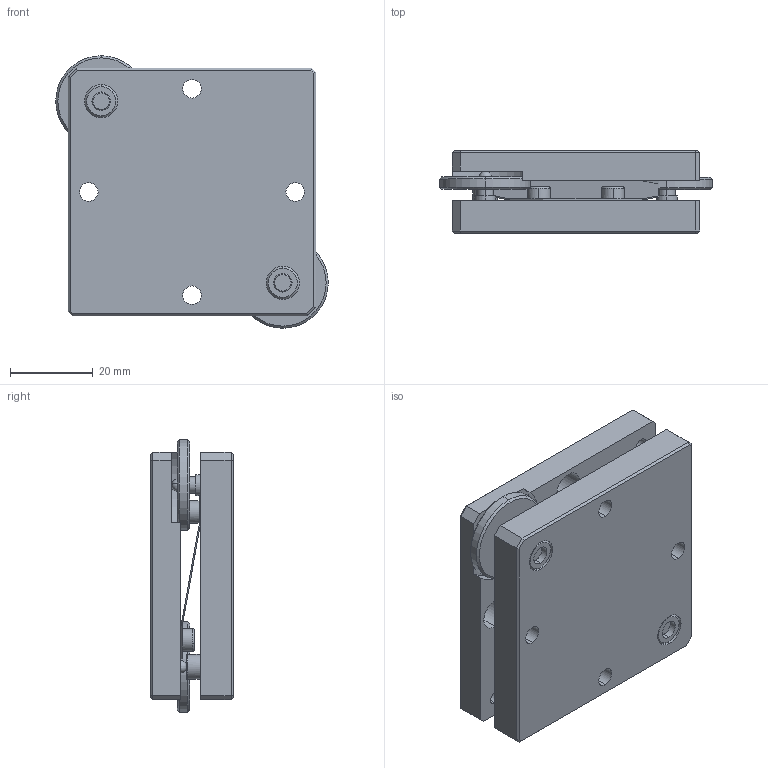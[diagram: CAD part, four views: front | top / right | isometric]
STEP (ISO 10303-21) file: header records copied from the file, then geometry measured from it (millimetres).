
FILE_DESCRIPTION (( 'STEP AP203' ), '1' );
FILE_NAME ('BTD60.STEP', '2024-03-04T02:41:12', ( 'China' ), ( 'Microsoft' ), 'SwSTEP 2.0', 'SolidWorks 2024', '' );
FILE_SCHEMA (( 'CONFIG_CONTROL_DESIGN' ));
Length unit declared in the file: millimetre
Products named in the file (1): BTD60
Bounding box: 66 x 20 x 66 mm (x, y, z)
Volume: 53651.3 mm3; surface area: 23958 mm2
Topology: 4 solids, 4 shells, 206 faces, 475 edges, 300 vertices
Faces by surface type: cylinder 84, plane 82, cone 24, torus 14, sphere 2
Entity records: 6096 total; most frequent: CARTESIAN_POINT 1117, DIRECTION 1105, ORIENTED_EDGE 942, EDGE_CURVE 471, AXIS2_PLACEMENT_3D 436, VERTEX_POINT 300, EDGE_LOOP 261, VECTOR 233
